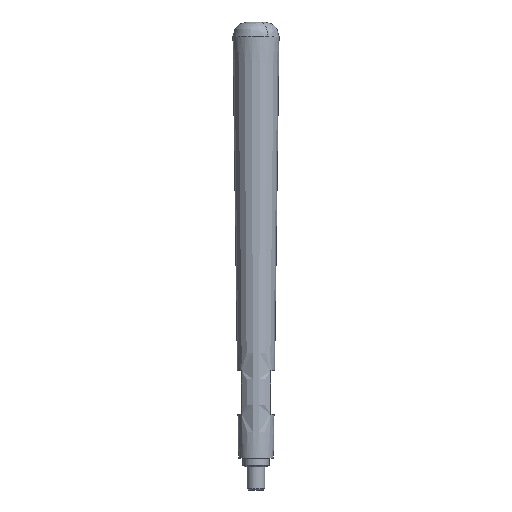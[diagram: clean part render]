
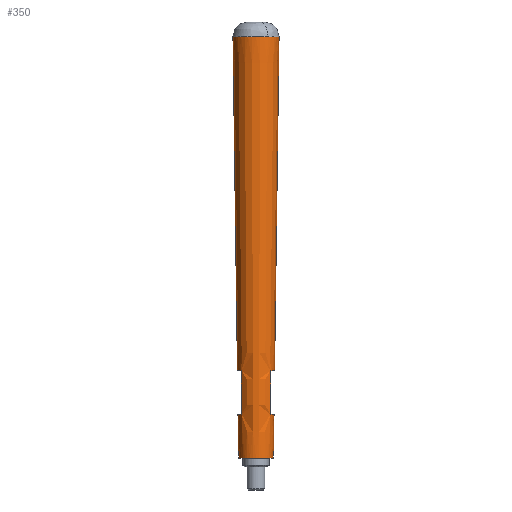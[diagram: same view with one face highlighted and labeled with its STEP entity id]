
A CAD part, front view. The second image highlights one B-rep face of the part: STEP entity #350.
In plain terms, the highlighted conical face has half-angle 0.764 degrees and reference radius 7.932 mm.
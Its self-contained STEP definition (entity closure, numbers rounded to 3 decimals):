
#2 = VERTEX_POINT ( 'NONE', #325 ) ;
#6 = CARTESIAN_POINT ( 'NONE',  ( 5., -3.666, 15. ) ) ;
#9 = VERTEX_POINT ( 'NONE', #322 ) ;
#24 = VECTOR ( 'NONE', #551, 1000. ) ;
#26 = CARTESIAN_POINT ( 'NONE',  ( -7.932, 0., 144.933 ) ) ;
#33 = DIRECTION ( 'NONE',  ( -0.013, 0., 1. ) ) ;
#46 = CARTESIAN_POINT ( 'NONE',  ( -6., 0., 0. ) ) ;
#68 = DIRECTION ( 'NONE',  ( 0., 0., 1. ) ) ;
#72 = DIRECTION ( 'NONE',  ( -1., 0., 0. ) ) ;
#110 = CARTESIAN_POINT ( 'NONE',  ( 6.2, 0., 15. ) ) ;
#112 = CARTESIAN_POINT ( 'NONE',  ( 5., -3.995, 30. ) ) ;
#126 = CARTESIAN_POINT ( 'NONE',  ( -5., -3.779, 20. ) ) ;
#131 = DIRECTION ( 'NONE',  ( 1., 0., 0. ) ) ;
#138 = CARTESIAN_POINT ( 'NONE',  ( -5., -3.995, 30. ) ) ;
#145 = VERTEX_POINT ( 'NONE', #887 ) ;
#156 = CIRCLE ( 'NONE', #708, 7.932 ) ;
#161 = CIRCLE ( 'NONE', #719, 6.4 ) ;
#166 = VERTEX_POINT ( 'NONE', #848 ) ;
#182 = CARTESIAN_POINT ( 'NONE',  ( 0., 0., 144.933 ) ) ;
#200 = CARTESIAN_POINT ( 'NONE',  ( 7.932, 0., 144.933 ) ) ;
#201 = ORIENTED_EDGE ( 'NONE', *, *, #392, .T. ) ;
#203 = B_SPLINE_CURVE_WITH_KNOTS ( 'NONE', 3,
 ( #768, #673, #292, #6 ),
 .UNSPECIFIED., .F., .F.,
 ( 4, 4 ),
 ( 0.038, 0.053 ),
 .UNSPECIFIED. ) ;
#208 = ORIENTED_EDGE ( 'NONE', *, *, #387, .F. ) ;
#244 = DIRECTION ( 'NONE',  ( -1., 0., 0. ) ) ;
#249 = DIRECTION ( 'NONE',  ( 0., 0., 1. ) ) ;
#253 = CARTESIAN_POINT ( 'NONE',  ( 6.4, 0., 30. ) ) ;
#260 = CARTESIAN_POINT ( 'NONE',  ( 7.932, 0., 144.933 ) ) ;
#263 = VERTEX_POINT ( 'NONE', #112 ) ;
#282 = CARTESIAN_POINT ( 'NONE',  ( 0., 0., 15. ) ) ;
#285 = VERTEX_POINT ( 'NONE', #253 ) ;
#289 = B_SPLINE_CURVE_WITH_KNOTS ( 'NONE', 3,
 ( #358, #126, #338, #138 ),
 .UNSPECIFIED., .F., .F.,
 ( 4, 4 ),
 ( 0.01, 0.025 ),
 .UNSPECIFIED. ) ;
#290 = CARTESIAN_POINT ( 'NONE',  ( 0., 0., 30. ) ) ;
#292 = CARTESIAN_POINT ( 'NONE',  ( 5., -3.779, 20. ) ) ;
#294 = CARTESIAN_POINT ( 'NONE',  ( 7.932, 0., 144.933 ) ) ;
#308 = VERTEX_POINT ( 'NONE', #361 ) ;
#312 = DIRECTION ( 'NONE',  ( 0., 0., 1. ) ) ;
#319 = ORIENTED_EDGE ( 'NONE', *, *, #896, .F. ) ;
#320 = CARTESIAN_POINT ( 'NONE',  ( -6.4, 0., 30. ) ) ;
#322 = CARTESIAN_POINT ( 'NONE',  ( 4., -6.85, 144.933 ) ) ;
#325 = CARTESIAN_POINT ( 'NONE',  ( -6.2, 0., 15. ) ) ;
#338 = CARTESIAN_POINT ( 'NONE',  ( -5., -3.888, 25. ) ) ;
#350 = ADVANCED_FACE ( 'NONE', ( #943 ), #725, .T. ) ;
#354 = DIRECTION ( 'NONE',  ( 0.013, 0., 1. ) ) ;
#358 = CARTESIAN_POINT ( 'NONE',  ( -5., -3.666, 15. ) ) ;
#361 = CARTESIAN_POINT ( 'NONE',  ( -7.932, 0., 144.933 ) ) ;
#364 = ORIENTED_EDGE ( 'NONE', *, *, #801, .T. ) ;
#371 = EDGE_CURVE ( 'NONE', #145, #541, #289, .T. ) ;
#387 = EDGE_CURVE ( 'NONE', #2, #145, #724, .T. ) ;
#392 = EDGE_CURVE ( 'NONE', #622, #166, #694, .T. ) ;
#401 = ORIENTED_EDGE ( 'NONE', *, *, #460, .T. ) ;
#403 = ORIENTED_EDGE ( 'NONE', *, *, #560, .T. ) ;
#428 = DIRECTION ( 'NONE',  ( -0.878, -0.479, 0. ) ) ;
#430 = DIRECTION ( 'NONE',  ( 0., 0., -1. ) ) ;
#432 = CARTESIAN_POINT ( 'NONE',  ( 0., 0., 144.933 ) ) ;
#458 = DIRECTION ( 'NONE',  ( 1., 0., 0. ) ) ;
#460 = EDGE_CURVE ( 'NONE', #9, #308, #794, .T. ) ;
#461 = CIRCLE ( 'NONE', #858, 6.2 ) ;
#464 = ORIENTED_EDGE ( 'NONE', *, *, #556, .T. ) ;
#465 = LINE ( 'NONE', #26, #484 ) ;
#466 = CARTESIAN_POINT ( 'NONE',  ( 0., 0., 0. ) ) ;
#467 = DIRECTION ( 'NONE',  ( 0., 0., 1. ) ) ;
#472 = CARTESIAN_POINT ( 'NONE',  ( 5., -3.666, 15. ) ) ;
#477 = VECTOR ( 'NONE', #583, 1000. ) ;
#484 = VECTOR ( 'NONE', #33, 1000. ) ;
#497 = DIRECTION ( 'NONE',  ( 0., 0., 1. ) ) ;
#514 = DIRECTION ( 'NONE',  ( -1., 0., 0. ) ) ;
#519 = CARTESIAN_POINT ( 'NONE',  ( 0., 0., 30. ) ) ;
#520 = DIRECTION ( 'NONE',  ( 0., 0., 1. ) ) ;
#530 = EDGE_CURVE ( 'NONE', #166, #613, #659, .T. ) ;
#541 = VERTEX_POINT ( 'NONE', #763 ) ;
#551 = DIRECTION ( 'NONE',  ( -0.013, 0., 1. ) ) ;
#553 = EDGE_CURVE ( 'NONE', #622, #2, #615, .T. ) ;
#556 = EDGE_CURVE ( 'NONE', #691, #541, #161, .T. ) ;
#558 = LINE ( 'NONE', #294, #575 ) ;
#560 = EDGE_CURVE ( 'NONE', #886, #9, #156, .T. ) ;
#571 = CIRCLE ( 'NONE', #888, 6.4 ) ;
#572 = ORIENTED_EDGE ( 'NONE', *, *, #819, .T. ) ;
#575 = VECTOR ( 'NONE', #354, 1000. ) ;
#583 = DIRECTION ( 'NONE',  ( 0.013, 0., 1. ) ) ;
#584 = CARTESIAN_POINT ( 'NONE',  ( -7.932, 0., 144.933 ) ) ;
#588 = VERTEX_POINT ( 'NONE', #472 ) ;
#613 = VERTEX_POINT ( 'NONE', #110 ) ;
#615 = LINE ( 'NONE', #584, #24 ) ;
#622 = VERTEX_POINT ( 'NONE', #46 ) ;
#644 = AXIS2_PLACEMENT_3D ( 'NONE', #466, #467, #458 ) ;
#648 = AXIS2_PLACEMENT_3D ( 'NONE', #746, #497, #663 ) ;
#654 = AXIS2_PLACEMENT_3D ( 'NONE', #182, #312, #131 ) ;
#659 = LINE ( 'NONE', #200, #477 ) ;
#663 = DIRECTION ( 'NONE',  ( -1., 0., 0. ) ) ;
#668 = ORIENTED_EDGE ( 'NONE', *, *, #553, .F. ) ;
#670 = ORIENTED_EDGE ( 'NONE', *, *, #530, .T. ) ;
#673 = CARTESIAN_POINT ( 'NONE',  ( 5., -3.888, 25. ) ) ;
#674 = AXIS2_PLACEMENT_3D ( 'NONE', #742, #732, #755 ) ;
#691 = VERTEX_POINT ( 'NONE', #320 ) ;
#694 = CIRCLE ( 'NONE', #644, 6. ) ;
#708 = AXIS2_PLACEMENT_3D ( 'NONE', #432, #430, #428 ) ;
#719 = AXIS2_PLACEMENT_3D ( 'NONE', #290, #520, #514 ) ;
#724 = CIRCLE ( 'NONE', #648, 6.2 ) ;
#725 = CONICAL_SURFACE ( 'NONE', #654, 7.932, 0.013 ) ;
#732 = DIRECTION ( 'NONE',  ( 0., 0., -1. ) ) ;
#734 = EDGE_LOOP ( 'NONE', ( #668, #201, #670, #751, #319, #572, #364, #403, #401, #824, #464, #797, #208 ) ) ;
#742 = CARTESIAN_POINT ( 'NONE',  ( 0., 0., 144.933 ) ) ;
#746 = CARTESIAN_POINT ( 'NONE',  ( 0., 0., 15. ) ) ;
#751 = ORIENTED_EDGE ( 'NONE', *, *, #753, .F. ) ;
#753 = EDGE_CURVE ( 'NONE', #588, #613, #461, .T. ) ;
#755 = DIRECTION ( 'NONE',  ( -0.878, -0.479, 0. ) ) ;
#763 = CARTESIAN_POINT ( 'NONE',  ( -5., -3.995, 30. ) ) ;
#768 = CARTESIAN_POINT ( 'NONE',  ( 5., -3.995, 30. ) ) ;
#782 = EDGE_CURVE ( 'NONE', #691, #308, #465, .T. ) ;
#794 = CIRCLE ( 'NONE', #674, 7.932 ) ;
#797 = ORIENTED_EDGE ( 'NONE', *, *, #371, .F. ) ;
#801 = EDGE_CURVE ( 'NONE', #285, #886, #558, .T. ) ;
#819 = EDGE_CURVE ( 'NONE', #263, #285, #571, .T. ) ;
#824 = ORIENTED_EDGE ( 'NONE', *, *, #782, .F. ) ;
#848 = CARTESIAN_POINT ( 'NONE',  ( 6., 0., 0. ) ) ;
#858 = AXIS2_PLACEMENT_3D ( 'NONE', #282, #249, #244 ) ;
#886 = VERTEX_POINT ( 'NONE', #260 ) ;
#887 = CARTESIAN_POINT ( 'NONE',  ( -5., -3.666, 15. ) ) ;
#888 = AXIS2_PLACEMENT_3D ( 'NONE', #519, #68, #72 ) ;
#896 = EDGE_CURVE ( 'NONE', #263, #588, #203, .T. ) ;
#943 = FACE_OUTER_BOUND ( 'NONE', #734, .T. ) ;
